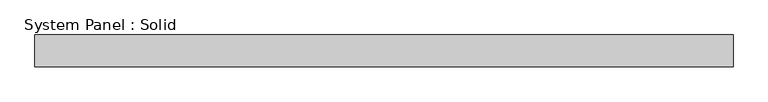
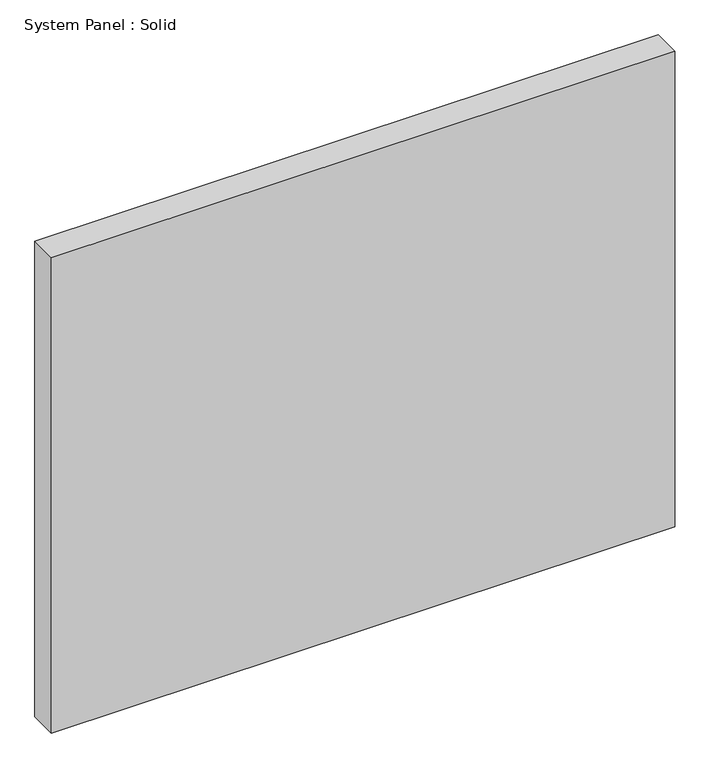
"""IFC4 building model written with IfcOpenShell, lengths in millimetres: plate geometry, System Panel : Solid."""

from ifc_helpers import new_model, si_unit, origin, origin_with_axes, place, context, project, spatial, polyline, outline, extrude, source, transform, mapped, element, save


def system_panel_solid_c28df52d(model_context):
    return source(origin(), model_context, "Body", "SweptSolid", [
        extrude(outline(polyline([(697.1738156, -19.05), (-697.1738156, -19.05), (-697.1738156, 44.45), (697.1738156, 44.45), (697.1738156, -19.05)])), origin_with_axes(), (0.0, 0.0, 1.0), 1123.95),
    ])


if __name__ == "__main__":
    model = new_model("IFC4")
    model_context = context("Model", 3, world=origin())
    ifc_project = project(units=[si_unit("LENGTHUNIT", "METRE", prefix="MILLI")], contexts=[model_context])
    site = spatial("IfcSite", under=ifc_project)
    building = spatial("IfcBuilding", under=site)
    placement = place(None, origin())
    system_panel_solid_shape = system_panel_solid_c28df52d(model_context)
    element("IfcPlate", 1, ObjectType="System Panel : Solid", at=placement, inside=building, context=model_context, shape_type="MappedRepresentation", body=[
        mapped(system_panel_solid_shape, transform((0.0, 0.0, 0.0), x_axis=(1.0, 0.0, 0.0), y_axis=(0.0, 1.0, 0.0), z_axis=(0.0, 0.0, 1.0))),
    ])
    save(model, "model.ifc")
